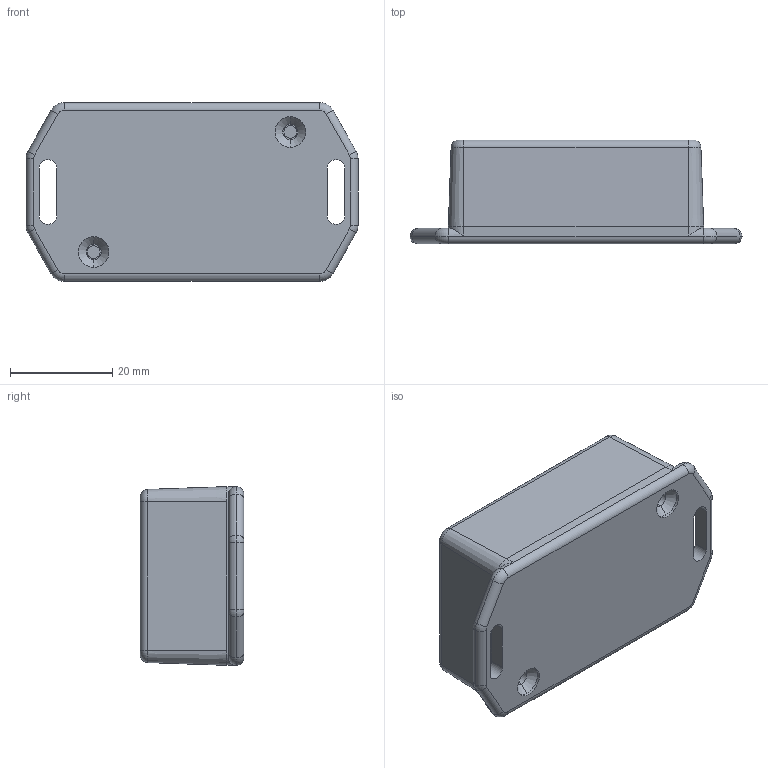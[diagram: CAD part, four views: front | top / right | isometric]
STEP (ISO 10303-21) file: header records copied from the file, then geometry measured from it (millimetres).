
FILE_DESCRIPTION (( 'STEP AP203' ), '1' );
FILE_NAME ('PM004.STEP', '2017-10-02T07:48:50', ( '' ), ( '' ), 'SwSTEP 2.0', 'SolidWorks 2015', '' );
FILE_SCHEMA (( 'CONFIG_CONTROL_DESIGN' ));
Length unit declared in the file: millimetre
Products named in the file (3): PM004
Assembly tree (2 placements, depth 2):
  PM004
    PM004
    PM004
Bounding box: 65 x 20.3 x 35 mm (x, y, z)
Volume: 13150.4 mm3; surface area: 14854.3 mm2
Topology: 2 solids, 2 shells, 161 faces, 393 edges, 250 vertices
Faces by surface type: plane 60, cylinder 49, cone 32, torus 20
Entity records: 5118 total; most frequent: DIRECTION 899, CARTESIAN_POINT 857, ORIENTED_EDGE 786, EDGE_CURVE 393, AXIS2_PLACEMENT_3D 344, VERTEX_POINT 250, VECTOR 211, LINE 211
